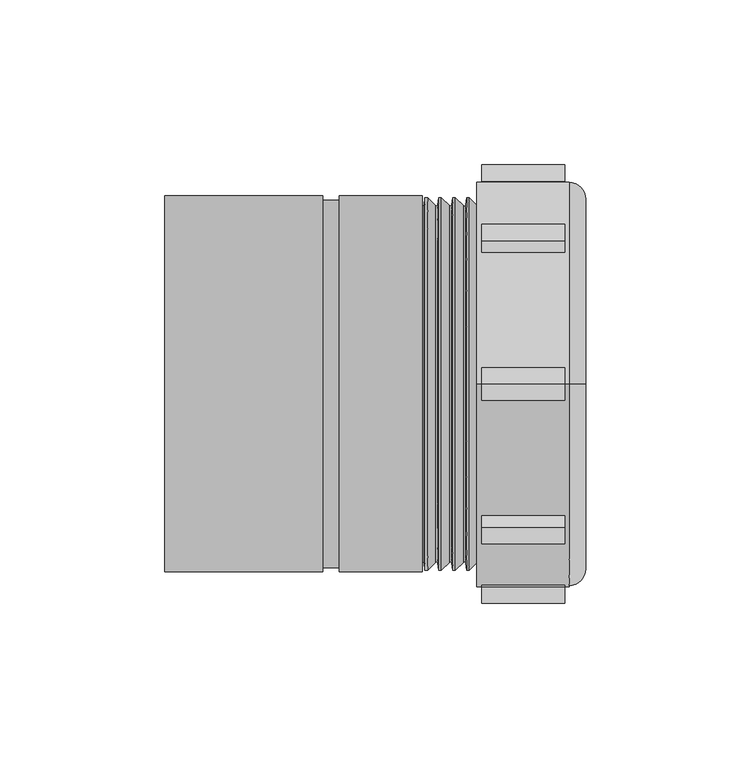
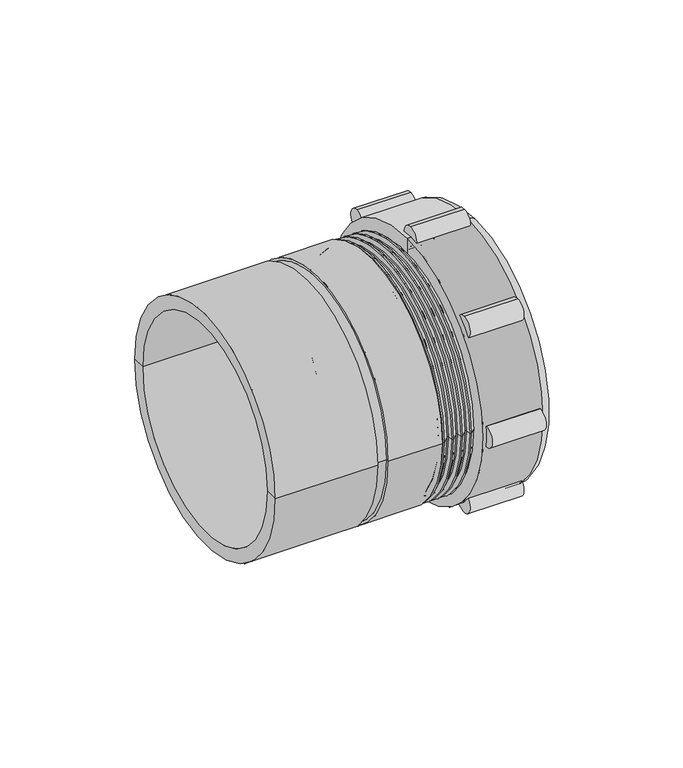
"""IFC4 building model written with IfcOpenShell, lengths in millimetres: pipe fitting geometry, Durapipe_PipeFitting_VulcatheneMechanical_ReducingCoupler_W39 : W3941_4Inxh x 1.25Inch_102mm x 32mm."""

from ifc_helpers import new_model, si_unit, point, frame, frame_2d, origin, place, context, project, spatial, polyline, circle_curve, ellipse_curve, trimmed, segment, composite_curve, outline, extrude, source, transform, mapped, element, save
from ifc_brep_helpers import plane_surface, cylinder_surface, revolved_surface, advanced_brep


def pipe_fitting_d1e91bc4(model_context):
    return source(origin(), model_context, "Body", "SolidModel", [
        advanced_brep(
        [(57.55, 35.9917352, 35.9917352), (57.55, 31.3248304, 31.3248304), (57.55, -31.3248304, -31.3248304), (57.55, -35.9917352, -35.9917352), (37.25, -32.8804653, -32.8804653), (37.25, 32.8804653, 32.8804653), (12.55, 32.8804653, 32.8804653), (12.55, -32.8804653, -32.8804653), (12.55, -31.3248304, -31.3248304), (12.55, 31.3248304, 31.3248304), (46.85, -31.3248304, -31.3248304), (46.85, 31.3248304, 31.3248304), (46.85, -30.6884343, -30.6884343), (46.85, 30.6884343, 30.6884343), (51.45, 31.3248304, 31.3248304), (51.45, 30.6884343, 30.6884343), (51.45, -30.6884343, -30.6884343), (51.45, -31.3248304, -31.3248304)],
        [
            (0, 1),
            (1, 2, circle_curve(frame((57.55, 0.0, 0.0), z_axis=(-1.0, 0.0, 0.0), x_axis=(0.0, -0.7071067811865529, -0.7071067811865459)), 44.3)),
            (2, 3),
            (3, 0, circle_curve(frame((57.55, 0.0, 0.0), z_axis=(1.0, 0.0, 0.0), x_axis=(0.0, -0.7071067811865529, -0.7071067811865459)), 50.9)),
            (2, 1, circle_curve(frame((57.55, 0.0, 0.0), z_axis=(-1.0, 0.0, 0.0), x_axis=(0.0, -0.7071067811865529, -0.7071067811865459)), 44.3)),
            (0, 3, circle_curve(frame((57.55, 0.0, 0.0), z_axis=(1.0, 0.0, 0.0), x_axis=(0.0, -0.7071067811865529, -0.7071067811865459)), 50.9)),
            (3, 4),
            (4, 5, circle_curve(frame((37.25, 0.0, 0.0), z_axis=(1.0, 0.0, 0.0), x_axis=(0.0, -0.7071067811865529, -0.7071067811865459)), 46.5)),
            (5, 0),
            (5, 4, circle_curve(frame((37.25, 0.0, 0.0), z_axis=(1.0, 0.0, 0.0), x_axis=(0.0, -0.7071067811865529, -0.7071067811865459)), 46.5)),
            (6, 5),
            (4, 7),
            (7, 6, circle_curve(frame((12.55, 0.0, 0.0), z_axis=(1.0, 0.0, 0.0), x_axis=(0.0, -0.7071067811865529, -0.7071067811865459)), 46.5)),
            (6, 7, circle_curve(frame((12.55, 0.0, 0.0), z_axis=(1.0, 0.0, 0.0), x_axis=(0.0, -0.7071067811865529, -0.7071067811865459)), 46.5)),
            (7, 8),
            (8, 9, circle_curve(frame((12.55, 0.0, 0.0), z_axis=(1.0, 0.0, 0.0), x_axis=(0.0, -0.7071067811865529, -0.7071067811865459)), 44.3)),
            (9, 6),
            (9, 8, circle_curve(frame((12.55, 0.0, 0.0), z_axis=(1.0, 0.0, 0.0), x_axis=(0.0, -0.7071067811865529, -0.7071067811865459)), 44.3)),
            (8, 10),
            (10, 11, circle_curve(frame((46.85, 0.0, 0.0), z_axis=(1.0, 0.0, 0.0), x_axis=(0.0, -0.7071067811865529, -0.7071067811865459)), 44.3)),
            (11, 9),
            (11, 10, circle_curve(frame((46.85, 0.0, 0.0), z_axis=(1.0, 0.0, 0.0), x_axis=(0.0, -0.7071067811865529, -0.7071067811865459)), 44.3)),
            (10, 12),
            (12, 13, circle_curve(frame((46.85, 0.0, 0.0), z_axis=(1.0, 0.0, 0.0), x_axis=(0.0, -0.7071067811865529, -0.7071067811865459)), 43.4)),
            (13, 11),
            (13, 12, circle_curve(frame((46.85, 0.0, 0.0), z_axis=(1.0, 0.0, 0.0), x_axis=(0.0, -0.7071067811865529, -0.7071067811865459)), 43.4)),
            (14, 15),
            (15, 16, circle_curve(frame((51.45, 0.0, 0.0), z_axis=(-1.0, 0.0, 0.0), x_axis=(0.0, -0.7071067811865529, -0.7071067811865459)), 43.4)),
            (16, 17),
            (17, 14, circle_curve(frame((51.45, 0.0, 0.0), z_axis=(1.0, 0.0, 0.0), x_axis=(0.0, -0.7071067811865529, -0.7071067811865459)), 44.3)),
            (16, 15, circle_curve(frame((51.45, 0.0, 0.0), z_axis=(-1.0, 0.0, 0.0), x_axis=(0.0, -0.7071067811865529, -0.7071067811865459)), 43.4)),
            (14, 17, circle_curve(frame((51.45, 0.0, 0.0), z_axis=(1.0, 0.0, 0.0), x_axis=(0.0, -0.7071067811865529, -0.7071067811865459)), 44.3)),
            (1, 14),
            (17, 2),
            (12, 16),
            (15, 13),
        ],
        [
            plane_surface(frame((57.55, 0.0, 0.0), z_axis=(1.0, 0.0, 0.0), x_axis=(0.0, -0.707106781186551, -0.707106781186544))),
            revolved_surface(polyline([(57.55, -35.9917352, -35.9917352), (37.25, -32.8804653, -32.8804653)]), (62.55, 0.0, 0.0), (-1.0000000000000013, 0.0, 0.0)),
            cylinder_surface(frame((10.4793443, 0.0, 0.0), z_axis=(-1.0000000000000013, 0.0, 0.0), x_axis=(0.0, -0.7071067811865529, -0.7071067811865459)), 46.5),
            plane_surface(frame((12.55, 0.0, 0.0), z_axis=(-1.0, 0.0, 0.0), x_axis=(0.0, -0.707106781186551, -0.707106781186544))),
            revolved_surface(polyline([(12.55000000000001, -31.324830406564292, -31.324830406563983), (46.8500000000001, -31.324830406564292, -31.324830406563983)]), (9.057009, 0.0, 0.0), (-1.0000000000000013, 0.0, 0.0)),
            plane_surface(frame((46.85, 0.0, 0.0), z_axis=(-1.0, 0.0, 0.0), x_axis=(0.0, -0.707106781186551, -0.707106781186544))),
            plane_surface(frame((51.45, 0.0, 0.0), z_axis=(1.0, 0.0, 0.0), x_axis=(0.0, -0.707106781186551, -0.707106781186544))),
            revolved_surface(polyline([(51.449999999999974, -31.324830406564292, -31.324830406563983), (57.54999999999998, -31.324830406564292, -31.324830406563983)]), (62.55, 0.0, 0.0), (-1.0000000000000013, 0.0, 0.0)),
            revolved_surface(polyline([(46.849999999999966, -30.688434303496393, -30.68843430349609), (51.44999999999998, -30.688434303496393, -30.68843430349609)]), (59.1161924, 0.0, 0.0), (-1.0000000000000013, 0.0, 0.0)),
        ],
        [
            (0, [[1, 2, 3, 4]]),
            (0, [[5, -1, 6, -3]]),
            (1, [[7, 8, 9, -4]]),
            (1, [[-9, 10, -7, -6]]),
            (2, [[11, -8, 12, 13]]),
            (2, [[-10, -11, 14, -12]]),
            (3, [[15, 16, 17, -13]]),
            (3, [[-17, 18, -15, -14]]),
            (4, [[-16, 19, 20, 21]]),
            (4, [[22, -19, -18, -21]]),
            (5, [[23, 24, 25, -20]]),
            (5, [[-25, 26, -23, -22]]),
            (6, [[27, 28, 29, 30]]),
            (6, [[-29, 31, -27, 32]]),
            (7, [[33, -30, 34, -2]]),
            (7, [[-34, -32, -33, -5]]),
            (8, [[-24, 35, -28, 36]]),
            (8, [[-31, -35, -26, -36]]),
        ],
    ),
        advanced_brep(
        [(30.85, 0.0, 61.5), (58.85, 0.0, 61.5), (58.85, 0.0, -61.5), (30.85, 0.0, -61.5), (30.85, 0.0, 53.0), (30.85, 0.0, -53.0), (63.85, 0.0, 56.5), (63.85, 0.0, 45.0), (63.85, 0.0, -45.0), (63.85, 0.0, -56.5), (57.55, 0.0, 53.0), (57.55, 0.0, -53.0), (57.55, 0.0, 45.0), (57.55, 0.0, -45.0)],
        [
            (0, 1),
            (1, 2, circle_curve(frame((58.85, 0.0, 0.0), z_axis=(-1.0, 0.0, 0.0), x_axis=(0.0, 0.0, -1.0000000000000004)), 61.5)),
            (2, 3),
            (3, 0, circle_curve(frame((30.85, 0.0, 0.0), z_axis=(1.0, 0.0, 0.0), x_axis=(0.0, 0.0, -1.0000000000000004)), 61.5)),
            (2, 1, circle_curve(frame((58.85, 0.0, 0.0), z_axis=(-1.0, 0.0, 0.0), x_axis=(0.0, 0.0, -1.0000000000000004)), 61.5)),
            (0, 3, circle_curve(frame((30.85, 0.0, 0.0), z_axis=(1.0, 0.0, 0.0), x_axis=(0.0, 0.0, -1.0000000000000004)), 61.5)),
            (4, 0),
            (3, 5),
            (5, 4, circle_curve(frame((30.85, 0.0, 0.0), z_axis=(1.0, 0.0, 0.0), x_axis=(0.0, 0.0, -1.0000000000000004)), 53.0)),
            (4, 5, circle_curve(frame((30.85, 0.0, 0.0), z_axis=(1.0, 0.0, 0.0), x_axis=(0.0, 0.0, -1.0000000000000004)), 53.0)),
            (6, 7),
            (7, 8, circle_curve(frame((63.85, 0.0, 0.0), z_axis=(-1.0, 0.0, 0.0), x_axis=(0.0, 0.0, -1.0000000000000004)), 45.0)),
            (8, 9),
            (9, 6, circle_curve(frame((63.85, 0.0, 0.0), z_axis=(1.0, 0.0, 0.0), x_axis=(0.0, 0.0, -1.0000000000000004)), 56.5)),
            (8, 7, circle_curve(frame((63.85, 0.0, 0.0), z_axis=(-1.0, 0.0, 0.0), x_axis=(0.0, 0.0, -1.0000000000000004)), 45.0)),
            (6, 9, circle_curve(frame((63.85, 0.0, 0.0), z_axis=(1.0, 0.0, 0.0), x_axis=(0.0, 0.0, -1.0000000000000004)), 56.5)),
            (1, 6, circle_curve(frame((58.85, 0.0, 56.5), z_axis=(0.0, 1.0000000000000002, 0.0), x_axis=(1.0000000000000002, 0.0, 0.0)), 5.0)),
            (9, 2, circle_curve(frame((58.85, 0.0, -56.5), z_axis=(0.0, 1.0000000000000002, 0.0), x_axis=(1.0000000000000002, 0.0, 0.0)), 5.0)),
            (10, 4),
            (5, 11),
            (11, 10, circle_curve(frame((57.55, 0.0, 0.0), z_axis=(1.0, 0.0, 0.0), x_axis=(0.0, 0.0, -1.0000000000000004)), 53.0)),
            (10, 11, circle_curve(frame((57.55, 0.0, 0.0), z_axis=(1.0, 0.0, 0.0), x_axis=(0.0, 0.0, -1.0000000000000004)), 53.0)),
            (12, 10),
            (11, 13),
            (13, 12, circle_curve(frame((57.55, 0.0, 0.0), z_axis=(1.0, 0.0, 0.0), x_axis=(0.0, 0.0, -1.0000000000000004)), 45.0)),
            (12, 13, circle_curve(frame((57.55, 0.0, 0.0), z_axis=(1.0, 0.0, 0.0), x_axis=(0.0, 0.0, -1.0000000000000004)), 45.0)),
            (7, 12),
            (13, 8),
        ],
        [
            cylinder_surface(frame((1624.6518184, 0.0, 0.0), z_axis=(-1.0000000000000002, 0.0, 0.0), x_axis=(0.0, 0.0, -1.0000000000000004)), 61.5),
            plane_surface(frame((30.85, 0.0, 0.0), z_axis=(-1.0, 0.0, 0.0), x_axis=(0.0, 0.0, -1.0))),
            plane_surface(frame((63.85, 0.0, 0.0), z_axis=(1.0, 0.0, 0.0), x_axis=(0.0, 0.0, -1.0))),
            revolved_surface(trimmed(ellipse_curve(frame((58.85, 0.0, -56.5), z_axis=(0.0, 1.0000000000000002, 0.0), x_axis=(1.0000000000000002, 0.0, 0.0)), 5.0, 5.0), [point((63.85, 0.0, -56.5))], [point((58.85, 0.0, -61.5))], True, "CARTESIAN"), (1624.6518184, 0.0, 0.0), (-1.0000000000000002, 0.0, 0.0)),
            revolved_surface(polyline([(30.849999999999, 0.0, -53.00000000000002), (57.549999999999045, 0.0, -53.00000000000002)]), (1624.6518184, 0.0, 0.0), (-1.0000000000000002, 0.0, 0.0)),
            plane_surface(frame((57.55, 0.0, 0.0), z_axis=(-1.0, 0.0, 0.0), x_axis=(0.0, 0.0, -1.0))),
            revolved_surface(polyline([(57.549999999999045, 0.0, -45.00000000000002), (63.849999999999, 0.0, -45.00000000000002)]), (1624.6518184, 0.0, 0.0), (-1.0000000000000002, 0.0, 0.0)),
        ],
        [
            (0, [[1, 2, 3, 4]]),
            (0, [[-3, 5, -1, 6]]),
            (1, [[7, -4, 8, 9]]),
            (1, [[-8, -6, -7, 10]]),
            (2, [[11, 12, 13, 14]]),
            (2, [[-13, 15, -11, 16]]),
            (3, [[17, -14, 18, -2]]),
            (3, [[-18, -16, -17, -5]]),
            (4, [[19, -9, 20, 21]]),
            (4, [[-20, -10, -19, 22]]),
            (5, [[23, -21, 24, 25]]),
            (5, [[-24, -22, -23, 26]]),
            (6, [[27, -25, 28, -12]]),
            (6, [[-28, -26, -27, -15]]),
        ],
    ),
        extrude(outline(composite_curve([segment(trimmed(circle_curve(frame_2d((-61.5, 0.0)), 5.0), [point((-61.5, 5.0))], [point((-61.5, -5.0))], False, "CARTESIAN"), True, "CONTINUOUS"), segment(trimmed(circle_curve(frame_2d((-61.5, 0.0)), 5.0), [point((-61.5, -5.0))], [point((-61.5, 5.0))], False, "CARTESIAN"), True, "CONTINUOUS")], self_intersect=False)), frame((32.35, 0.0, 0.0), z_axis=(1.0, 0.0, 0.0), x_axis=(0.0, 1.0, 0.0)), (0.0, 0.0, 1.0), 25.2),
        extrude(outline(composite_curve([segment(trimmed(circle_curve(frame_2d((-43.487067, -43.487067)), 5.0), [point((-43.487067, -38.487067))], [point((-43.487067, -48.487067))], False, "CARTESIAN"), True, "CONTINUOUS"), segment(trimmed(circle_curve(frame_2d((-43.487067, -43.487067)), 5.0), [point((-43.487067, -48.487067))], [point((-43.487067, -38.487067))], False, "CARTESIAN"), True, "CONTINUOUS")], self_intersect=False)), frame((32.35, 0.0, 0.0), z_axis=(1.0, 0.0, 0.0), x_axis=(0.0, 1.0, 0.0)), (0.0, 0.0, 1.0), 25.2),
        extrude(outline(composite_curve([segment(trimmed(circle_curve(frame_2d((0.0, -61.5)), 5.0), [point((0.0, -56.5))], [point((0.0, -66.5))], False, "CARTESIAN"), True, "CONTINUOUS"), segment(trimmed(circle_curve(frame_2d((0.0, -61.5)), 5.0), [point((0.0, -66.5))], [point((0.0, -56.5))], False, "CARTESIAN"), True, "CONTINUOUS")], self_intersect=False)), frame((32.35, 0.0, 0.0), z_axis=(1.0, 0.0, 0.0), x_axis=(0.0, 1.0, 0.0)), (0.0, 0.0, 1.0), 25.2),
        extrude(outline(composite_curve([segment(trimmed(circle_curve(frame_2d((43.487067, -43.487067)), 5.0), [point((43.487067, -38.487067))], [point((43.487067, -48.487067))], False, "CARTESIAN"), True, "CONTINUOUS"), segment(trimmed(circle_curve(frame_2d((43.487067, -43.487067)), 5.0), [point((43.487067, -48.487067))], [point((43.487067, -38.487067))], False, "CARTESIAN"), True, "CONTINUOUS")], self_intersect=False)), frame((32.35, 0.0, 0.0), z_axis=(1.0, 0.0, 0.0), x_axis=(0.0, 1.0, 0.0)), (0.0, 0.0, 1.0), 25.2),
        extrude(outline(composite_curve([segment(trimmed(circle_curve(frame_2d((61.5, 0.0)), 5.0), [point((61.5, 5.0))], [point((61.5, -5.0))], False, "CARTESIAN"), True, "CONTINUOUS"), segment(trimmed(circle_curve(frame_2d((61.5, 0.0)), 5.0), [point((61.5, -5.0))], [point((61.5, 5.0))], False, "CARTESIAN"), True, "CONTINUOUS")], self_intersect=False)), frame((32.35, 0.0, 0.0), z_axis=(1.0, 0.0, 0.0), x_axis=(0.0, 1.0, 0.0)), (0.0, 0.0, 1.0), 25.2),
        extrude(outline(composite_curve([segment(trimmed(circle_curve(frame_2d((43.487067, 43.487067)), 5.0), [point((43.487067, 48.487067))], [point((43.487067, 38.487067))], False, "CARTESIAN"), True, "CONTINUOUS"), segment(trimmed(circle_curve(frame_2d((43.487067, 43.487067)), 5.0), [point((43.487067, 38.487067))], [point((43.487067, 48.487067))], False, "CARTESIAN"), True, "CONTINUOUS")], self_intersect=False)), frame((32.35, 0.0, 0.0), z_axis=(1.0, 0.0, 0.0), x_axis=(0.0, 1.0, 0.0)), (0.0, 0.0, 1.0), 25.2),
        extrude(outline(composite_curve([segment(trimmed(circle_curve(frame_2d((0.0, 61.5)), 5.0), [point((0.0, 66.5))], [point((0.0, 56.5))], False, "CARTESIAN"), True, "CONTINUOUS"), segment(trimmed(circle_curve(frame_2d((0.0, 61.5)), 5.0), [point((0.0, 56.5))], [point((0.0, 66.5))], False, "CARTESIAN"), True, "CONTINUOUS")], self_intersect=False)), frame((32.35, 0.0, 0.0), z_axis=(1.0, 0.0, 0.0), x_axis=(0.0, 1.0, 0.0)), (0.0, 0.0, 1.0), 25.2),
        extrude(outline(composite_curve([segment(trimmed(circle_curve(frame_2d((-43.487067, 43.487067)), 5.0), [point((-43.487067, 48.487067))], [point((-43.487067, 38.487067))], False, "CARTESIAN"), True, "CONTINUOUS"), segment(trimmed(circle_curve(frame_2d((-43.487067, 43.487067)), 5.0), [point((-43.487067, 38.487067))], [point((-43.487067, 48.487067))], False, "CARTESIAN"), True, "CONTINUOUS")], self_intersect=False)), frame((32.35, 0.0, 0.0), z_axis=(1.0, 0.0, 0.0), x_axis=(0.0, 1.0, 0.0)), (0.0, 0.0, 1.0), 25.2),
        advanced_brep(
        [(-63.85, -57.035, 0.0), (-63.85, 57.035, 0.0), (-15.9625, 57.035, 0.0), (-15.9625, -57.035, 0.0), (-63.85, -50.8, 0.0), (-63.85, 50.8, 0.0), (6.2625, -50.8, 0.0), (6.2625, 50.8, 0.0), (6.2625, -39.290625, 0.0), (6.2625, 39.290625, 0.0), (11.025, -39.290625, 0.0), (11.025, 39.290625, 0.0), (11.025, -48.0314, 0.0), (11.025, 48.0314, 0.0), (32.7469474, -48.0314, 0.0), (32.7469474, 48.0314, 0.0), (31.9469474, -56.5528275, 0.0), (31.9469474, 56.5528275, 0.0), (32.7469474, 56.5528275, 0.0), (32.7469474, -56.5528275, 0.0), (31.6728935, -54.3208375, 0.0), (31.6728935, 54.3208375, 0.0), (30.9930323, -54.0867426, 0.0), (30.9930323, 54.0867426, 0.0), (28.5269474, -56.5528275, 0.0), (28.5269474, 56.5528275, 0.0), (27.7269474, -56.5528275, 0.0), (27.7269474, 56.5528275, 0.0), (27.4528935, -54.3208375, 0.0), (27.4528935, 54.3208375, 0.0), (26.7730323, -54.0867426, 0.0), (26.7730323, 54.0867426, 0.0), (24.3069474, -56.5528275, 0.0), (24.3069474, 56.5528275, 0.0), (23.5069474, -56.5528275, 0.0), (23.5069474, 56.5528275, 0.0), (23.2328935, -54.3208375, 0.0), (23.2328935, 54.3208375, 0.0), (22.5530323, -54.0867426, 0.0), (22.5530323, 54.0867426, 0.0), (20.0869474, -56.5528275, 0.0), (20.0869474, 56.5528275, 0.0), (19.2869474, -56.5528275, 0.0), (19.2869474, 56.5528275, 0.0), (19.0128935, -54.3208375, 0.0), (19.0128935, 54.3208375, 0.0), (18.3330323, -54.0867426, 0.0), (18.3330323, 54.0867426, 0.0), (15.8669474, -56.5528275, 0.0), (15.8669474, 56.5528275, 0.0), (15.0669474, -56.5528275, 0.0), (15.0669474, 56.5528275, 0.0), (14.7977638, -54.3605033, 0.0), (14.7977638, 54.3605033, 0.0), (14.2, -54.3970641, 0.0), (14.2, 54.3970641, 0.0), (14.2, -57.035, 0.0), (14.2, 57.035, 0.0), (-10.8825, -57.035, 0.0), (-10.8825, 57.035, 0.0), (-10.8825, -55.735, 0.0), (-10.8825, 55.735, 0.0), (-15.9625, -55.735, 0.0), (-15.9625, 55.735, 0.0)],
        [
            (0, 1, circle_curve(frame((-63.85, 0.0, 0.0), z_axis=(1.0, 0.0, 0.0), x_axis=(0.0, 1.0, 0.0)), 57.035)),
            (1, 2),
            (2, 3, circle_curve(frame((-15.9625, 0.0, 0.0), z_axis=(-1.0, 0.0, 0.0), x_axis=(0.0, 1.0, 0.0)), 57.035)),
            (3, 0),
            (1, 0, circle_curve(frame((-63.85, 0.0, 0.0), z_axis=(1.0, 0.0, 0.0), x_axis=(0.0, 1.0, 0.0)), 57.035)),
            (3, 2, circle_curve(frame((-15.9625, 0.0, 0.0), z_axis=(-1.0, 0.0, 0.0), x_axis=(0.0, 1.0, 0.0)), 57.035)),
            (4, 5, circle_curve(frame((-63.85, 0.0, 0.0), z_axis=(1.0, 0.0, 0.0), x_axis=(0.0, 1.0, 0.0)), 50.8)),
            (5, 1),
            (0, 4),
            (5, 4, circle_curve(frame((-63.85, 0.0, 0.0), z_axis=(1.0, 0.0, 0.0), x_axis=(0.0, 1.0, 0.0)), 50.8)),
            (6, 7, circle_curve(frame((6.2625, 0.0, 0.0), z_axis=(1.0, 0.0, 0.0), x_axis=(0.0, 1.0, 0.0)), 50.8)),
            (7, 5),
            (4, 6),
            (7, 6, circle_curve(frame((6.2625, 0.0, 0.0), z_axis=(1.0, 0.0, 0.0), x_axis=(0.0, 1.0, 0.0)), 50.8)),
            (8, 9, circle_curve(frame((6.2625, 0.0, 0.0), z_axis=(1.0, 0.0, 0.0), x_axis=(0.0, 1.0, 0.0)), 39.290625)),
            (9, 7),
            (6, 8),
            (9, 8, circle_curve(frame((6.2625, 0.0, 0.0), z_axis=(1.0, 0.0, 0.0), x_axis=(0.0, 1.0, 0.0)), 39.290625)),
            (10, 11, circle_curve(frame((11.025, 0.0, 0.0), z_axis=(1.0, 0.0, 0.0), x_axis=(0.0, 1.0, 0.0)), 39.290625)),
            (11, 9),
            (8, 10),
            (11, 10, circle_curve(frame((11.025, 0.0, 0.0), z_axis=(1.0, 0.0, 0.0), x_axis=(0.0, 1.0, 0.0)), 39.290625)),
            (12, 13, circle_curve(frame((11.025, 0.0, 0.0), z_axis=(1.0, 0.0, 0.0), x_axis=(0.0, 1.0, 0.0)), 48.0314)),
            (13, 11),
            (10, 12),
            (13, 12, circle_curve(frame((11.025, 0.0, 0.0), z_axis=(1.0, 0.0, 0.0), x_axis=(0.0, 1.0, 0.0)), 48.0314)),
            (14, 15, circle_curve(frame((32.7469474, 0.0, 0.0), z_axis=(1.0, 0.0, 0.0), x_axis=(0.0, 1.0, 0.0)), 48.0314)),
            (15, 13),
            (12, 14),
            (15, 14, circle_curve(frame((32.7469474, 0.0, 0.0), z_axis=(1.0, 0.0, 0.0), x_axis=(0.0, 1.0, 0.0)), 48.0314)),
            (16, 17, circle_curve(frame((31.9469474, 0.0, 0.0), z_axis=(1.0, 0.0, 0.0), x_axis=(0.0, 1.0, 0.0)), 56.5528275)),
            (17, 18),
            (18, 19, circle_curve(frame((32.7469474, 0.0, 0.0), z_axis=(-1.0, 0.0, 0.0), x_axis=(0.0, 1.0, 0.0)), 56.5528275)),
            (19, 16),
            (17, 16, circle_curve(frame((31.9469474, 0.0, 0.0), z_axis=(1.0, 0.0, 0.0), x_axis=(0.0, 1.0, 0.0)), 56.5528275)),
            (19, 18, circle_curve(frame((32.7469474, 0.0, 0.0), z_axis=(-1.0, 0.0, 0.0), x_axis=(0.0, 1.0, 0.0)), 56.5528275)),
            (20, 21, circle_curve(frame((31.6728935, 0.0, 0.0), z_axis=(1.0, 0.0, 0.0), x_axis=(0.0, 1.0, 0.0)), 54.3208375)),
            (21, 17),
            (16, 20),
            (21, 20, circle_curve(frame((31.6728935, 0.0, 0.0), z_axis=(1.0, 0.0, 0.0), x_axis=(0.0, 1.0, 0.0)), 54.3208375)),
            (22, 23, circle_curve(frame((30.9930323, 0.0, 0.0), z_axis=(1.0, 0.0, 0.0), x_axis=(0.0, 1.0, 0.0)), 54.0867426)),
            (23, 21, circle_curve(frame((31.275875, 54.3695853, 0.0), z_axis=(0.0, 0.0, 1.0), x_axis=(1.0, 0.0, 0.0)), 0.4)),
            (20, 22, circle_curve(frame((31.275875, -54.3695853, 0.0), z_axis=(0.0, 0.0, 1.0), x_axis=(1.0, 0.0, 0.0)), 0.4)),
            (23, 22, circle_curve(frame((30.9930323, 0.0, 0.0), z_axis=(1.0, 0.0, 0.0), x_axis=(0.0, 1.0, 0.0)), 54.0867426)),
            (24, 25, circle_curve(frame((28.5269474, 0.0, 0.0), z_axis=(1.0, 0.0, 0.0), x_axis=(0.0, 1.0, 0.0)), 56.5528275)),
            (25, 23),
            (22, 24),
            (25, 24, circle_curve(frame((28.5269474, 0.0, 0.0), z_axis=(1.0, 0.0, 0.0), x_axis=(0.0, 1.0, 0.0)), 56.5528275)),
            (26, 27, circle_curve(frame((27.7269474, 0.0, 0.0), z_axis=(1.0, 0.0, 0.0), x_axis=(0.0, 1.0, 0.0)), 56.5528275)),
            (27, 25),
            (24, 26),
            (27, 26, circle_curve(frame((27.7269474, 0.0, 0.0), z_axis=(1.0, 0.0, 0.0), x_axis=(0.0, 1.0, 0.0)), 56.5528275)),
            (28, 29, circle_curve(frame((27.4528935, 0.0, 0.0), z_axis=(1.0, 0.0, 0.0), x_axis=(0.0, 1.0, 0.0)), 54.3208375)),
            (29, 27),
            (26, 28),
            (29, 28, circle_curve(frame((27.4528935, 0.0, 0.0), z_axis=(1.0, 0.0, 0.0), x_axis=(0.0, 1.0, 0.0)), 54.3208375)),
            (30, 31, circle_curve(frame((26.7730323, 0.0, 0.0), z_axis=(1.0, 0.0, 0.0), x_axis=(0.0, 1.0, 0.0)), 54.0867426)),
            (31, 29, circle_curve(frame((27.055875, 54.3695853, 0.0), z_axis=(0.0, 0.0, 1.0), x_axis=(1.0, 0.0, 0.0)), 0.4)),
            (28, 30, circle_curve(frame((27.055875, -54.3695853, 0.0), z_axis=(0.0, 0.0, 1.0), x_axis=(1.0, 0.0, 0.0)), 0.4)),
            (31, 30, circle_curve(frame((26.7730323, 0.0, 0.0), z_axis=(1.0, 0.0, 0.0), x_axis=(0.0, 1.0, 0.0)), 54.0867426)),
            (32, 33, circle_curve(frame((24.3069474, 0.0, 0.0), z_axis=(1.0, 0.0, 0.0), x_axis=(0.0, 1.0, 0.0)), 56.5528275)),
            (33, 31),
            (30, 32),
            (33, 32, circle_curve(frame((24.3069474, 0.0, 0.0), z_axis=(1.0, 0.0, 0.0), x_axis=(0.0, 1.0, 0.0)), 56.5528275)),
            (34, 35, circle_curve(frame((23.5069474, 0.0, 0.0), z_axis=(1.0, 0.0, 0.0), x_axis=(0.0, 1.0, 0.0)), 56.5528275)),
            (35, 33),
            (32, 34),
            (35, 34, circle_curve(frame((23.5069474, 0.0, 0.0), z_axis=(1.0, 0.0, 0.0), x_axis=(0.0, 1.0, 0.0)), 56.5528275)),
            (36, 37, circle_curve(frame((23.2328935, 0.0, 0.0), z_axis=(1.0, 0.0, 0.0), x_axis=(0.0, 1.0, 0.0)), 54.3208375)),
            (37, 35),
            (34, 36),
            (37, 36, circle_curve(frame((23.2328935, 0.0, 0.0), z_axis=(1.0, 0.0, 0.0), x_axis=(0.0, 1.0, 0.0)), 54.3208375)),
            (38, 39, circle_curve(frame((22.5530323, 0.0, 0.0), z_axis=(1.0, 0.0, 0.0), x_axis=(0.0, 1.0, 0.0)), 54.0867426)),
            (39, 37, circle_curve(frame((22.835875, 54.3695853, 0.0), z_axis=(0.0, 0.0, 1.0), x_axis=(1.0, 0.0, 0.0)), 0.4)),
            (36, 38, circle_curve(frame((22.835875, -54.3695853, 0.0), z_axis=(0.0, 0.0, 1.0), x_axis=(1.0, 0.0, 0.0)), 0.4)),
            (39, 38, circle_curve(frame((22.5530323, 0.0, 0.0), z_axis=(1.0, 0.0, 0.0), x_axis=(0.0, 1.0, 0.0)), 54.0867426)),
            (40, 41, circle_curve(frame((20.0869474, 0.0, 0.0), z_axis=(1.0, 0.0, 0.0), x_axis=(0.0, 1.0, 0.0)), 56.5528275)),
            (41, 39),
            (38, 40),
            (41, 40, circle_curve(frame((20.0869474, 0.0, 0.0), z_axis=(1.0, 0.0, 0.0), x_axis=(0.0, 1.0, 0.0)), 56.5528275)),
            (42, 43, circle_curve(frame((19.2869474, 0.0, 0.0), z_axis=(1.0, 0.0, 0.0), x_axis=(0.0, 1.0, 0.0)), 56.5528275)),
            (43, 41),
            (40, 42),
            (43, 42, circle_curve(frame((19.2869474, 0.0, 0.0), z_axis=(1.0, 0.0, 0.0), x_axis=(0.0, 1.0, 0.0)), 56.5528275)),
            (44, 45, circle_curve(frame((19.0128935, 0.0, 0.0), z_axis=(1.0, 0.0, 0.0), x_axis=(0.0, 1.0, 0.0)), 54.3208375)),
            (45, 43),
            (42, 44),
            (45, 44, circle_curve(frame((19.0128935, 0.0, 0.0), z_axis=(1.0, 0.0, 0.0), x_axis=(0.0, 1.0, 0.0)), 54.3208375)),
            (46, 47, circle_curve(frame((18.3330323, 0.0, 0.0), z_axis=(1.0, 0.0, 0.0), x_axis=(0.0, 1.0, 0.0)), 54.0867426)),
            (47, 45, circle_curve(frame((18.615875, 54.3695853, 0.0), z_axis=(0.0, 0.0, 1.0), x_axis=(1.0, 0.0, 0.0)), 0.4)),
            (44, 46, circle_curve(frame((18.615875, -54.3695853, 0.0), z_axis=(0.0, 0.0, 1.0), x_axis=(1.0, 0.0, 0.0)), 0.4)),
            (47, 46, circle_curve(frame((18.3330323, 0.0, 0.0), z_axis=(1.0, 0.0, 0.0), x_axis=(0.0, 1.0, 0.0)), 54.0867426)),
            (48, 49, circle_curve(frame((15.8669474, 0.0, 0.0), z_axis=(1.0, 0.0, 0.0), x_axis=(0.0, 1.0, 0.0)), 56.5528275)),
            (49, 47),
            (46, 48),
            (49, 48, circle_curve(frame((15.8669474, 0.0, 0.0), z_axis=(1.0, 0.0, 0.0), x_axis=(0.0, 1.0, 0.0)), 56.5528275)),
            (50, 51, circle_curve(frame((15.0669474, 0.0, 0.0), z_axis=(1.0, 0.0, 0.0), x_axis=(0.0, 1.0, 0.0)), 56.5528275)),
            (51, 49),
            (48, 50),
            (51, 50, circle_curve(frame((15.0669474, 0.0, 0.0), z_axis=(1.0, 0.0, 0.0), x_axis=(0.0, 1.0, 0.0)), 56.5528275)),
            (52, 53, circle_curve(frame((14.7977638, 0.0, 0.0), z_axis=(1.0, 0.0, 0.0), x_axis=(0.0, 1.0, 0.0)), 54.3605033)),
            (53, 51),
            (50, 52),
            (53, 52, circle_curve(frame((14.7977638, 0.0, 0.0), z_axis=(1.0, 0.0, 0.0), x_axis=(0.0, 1.0, 0.0)), 54.3605033)),
            (54, 55, circle_curve(frame((14.2, 0.0, 0.0), z_axis=(1.0, 0.0, 0.0), x_axis=(0.0, 1.0, 0.0)), 54.3970641)),
            (55, 53, circle_curve(frame((14.5, 54.3970641, 0.0), z_axis=(0.0, 0.0, 1.0), x_axis=(1.0, 0.0, 0.0)), 0.3)),
            (52, 54, circle_curve(frame((14.5, -54.3970641, 0.0), z_axis=(0.0, 0.0, 1.0), x_axis=(1.0, 0.0, 0.0)), 0.3)),
            (55, 54, circle_curve(frame((14.2, 0.0, 0.0), z_axis=(1.0, 0.0, 0.0), x_axis=(0.0, 1.0, 0.0)), 54.3970641)),
            (56, 57, circle_curve(frame((14.2, 0.0, 0.0), z_axis=(1.0, 0.0, 0.0), x_axis=(0.0, 1.0, 0.0)), 57.035)),
            (57, 55),
            (54, 56),
            (57, 56, circle_curve(frame((14.2, 0.0, 0.0), z_axis=(1.0, 0.0, 0.0), x_axis=(0.0, 1.0, 0.0)), 57.035)),
            (58, 59, circle_curve(frame((-10.8825, 0.0, 0.0), z_axis=(1.0, 0.0, 0.0), x_axis=(0.0, 1.0, 0.0)), 57.035)),
            (59, 57),
            (56, 58),
            (59, 58, circle_curve(frame((-10.8825, 0.0, 0.0), z_axis=(1.0, 0.0, 0.0), x_axis=(0.0, 1.0, 0.0)), 57.035)),
            (60, 61, circle_curve(frame((-10.8825, 0.0, 0.0), z_axis=(1.0, 0.0, 0.0), x_axis=(0.0, 1.0, 0.0)), 55.735)),
            (61, 59),
            (58, 60),
            (61, 60, circle_curve(frame((-10.8825, 0.0, 0.0), z_axis=(1.0, 0.0, 0.0), x_axis=(0.0, 1.0, 0.0)), 55.735)),
            (62, 63, circle_curve(frame((-15.9625, 0.0, 0.0), z_axis=(1.0, 0.0, 0.0), x_axis=(0.0, 1.0, 0.0)), 55.735)),
            (63, 61),
            (60, 62),
            (63, 62, circle_curve(frame((-15.9625, 0.0, 0.0), z_axis=(1.0, 0.0, 0.0), x_axis=(0.0, 1.0, 0.0)), 55.735)),
            (2, 63),
            (62, 3),
            (18, 15),
            (14, 19),
        ],
        [
            cylinder_surface(frame((77.3437902, 0.0, 0.0), z_axis=(-1.0, 0.0, 0.0), x_axis=(0.0, 1.0, 0.0)), 57.035),
            plane_surface(frame((-63.85, 0.0, 0.0), z_axis=(-1.0, 0.0, 0.0), x_axis=(0.0, 1.0, 0.0))),
            revolved_surface(polyline([(-63.849999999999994, 50.8, 0.0), (6.262500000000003, 50.8, 0.0)]), (77.3437902, 0.0, 0.0), (-1.0, 0.0, 0.0)),
            plane_surface(frame((6.2625, 0.0, 0.0), z_axis=(-1.0, 0.0, 0.0), x_axis=(0.0, 1.0, 0.0))),
            revolved_surface(polyline([(6.262500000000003, 39.290625, 0.0), (11.025000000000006, 39.290625, 0.0)]), (77.3437902, 0.0, 0.0), (-1.0, 0.0, 0.0)),
            plane_surface(frame((11.025, 0.0, 0.0), z_axis=(1.0, 0.0, 0.0), x_axis=(0.0, 1.0, 0.0))),
            revolved_surface(polyline([(11.025000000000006, 48.0314, 0.0), (32.7469474, 48.0314, 0.0)]), (77.3437902, 0.0, 0.0), (-1.0, 0.0, 0.0)),
            cylinder_surface(frame((77.3437902, 0.0, 0.0), z_axis=(-1.0, 0.0, 0.0), x_axis=(0.0, 1.0, 0.0)), 56.5528275),
            revolved_surface(polyline([(31.9469474, 56.5528275, 0.0), (31.6728935, 54.3208375, 0.0)]), (77.3437902, 0.0, 0.0), (-1.0, 0.0, 0.0)),
            revolved_surface(trimmed(ellipse_curve(frame((31.275875, 54.3695853, 0.0), z_axis=(0.0, 0.0, -1.0), x_axis=(1.0, 0.0, 0.0)), 0.4, 0.4), [point((31.6728935, 54.3208375, 0.0))], [point((30.9930323, 54.0867426, 0.0))], True, "CARTESIAN"), (77.3437902, 0.0, 0.0), (-1.0, 0.0, 0.0)),
            revolved_surface(polyline([(30.9930323, 54.0867426, 0.0), (28.5269474, 56.5528275, 0.0)]), (77.3437902, 0.0, 0.0), (-1.0, 0.0, 0.0)),
            revolved_surface(polyline([(27.7269474, 56.5528275, 0.0), (27.4528935, 54.3208375, 0.0)]), (77.3437902, 0.0, 0.0), (-1.0, 0.0, 0.0)),
            revolved_surface(trimmed(ellipse_curve(frame((27.055875, 54.3695853, 0.0), z_axis=(0.0, 0.0, -1.0), x_axis=(1.0, 0.0, 0.0)), 0.4, 0.4), [point((27.4528935, 54.3208375, 0.0))], [point((26.7730323, 54.0867426, 0.0))], True, "CARTESIAN"), (77.3437902, 0.0, 0.0), (-1.0, 0.0, 0.0)),
            revolved_surface(polyline([(26.7730323, 54.0867426, 0.0), (24.3069474, 56.5528275, 0.0)]), (77.3437902, 0.0, 0.0), (-1.0, 0.0, 0.0)),
            revolved_surface(polyline([(23.5069474, 56.5528275, 0.0), (23.2328935, 54.3208375, 0.0)]), (77.3437902, 0.0, 0.0), (-1.0, 0.0, 0.0)),
            revolved_surface(trimmed(ellipse_curve(frame((22.835875, 54.3695853, 0.0), z_axis=(0.0, 0.0, -1.0), x_axis=(1.0, 0.0, 0.0)), 0.4, 0.4), [point((23.2328935, 54.3208375, 0.0))], [point((22.5530323, 54.0867426, 0.0))], True, "CARTESIAN"), (77.3437902, 0.0, 0.0), (-1.0, 0.0, 0.0)),
            revolved_surface(polyline([(22.5530323, 54.0867426, 0.0), (20.0869474, 56.5528275, 0.0)]), (77.3437902, 0.0, 0.0), (-1.0, 0.0, 0.0)),
            revolved_surface(polyline([(19.2869474, 56.5528275, 0.0), (19.0128935, 54.3208375, 0.0)]), (77.3437902, 0.0, 0.0), (-1.0, 0.0, 0.0)),
            revolved_surface(trimmed(ellipse_curve(frame((18.615875, 54.3695853, 0.0), z_axis=(0.0, 0.0, -1.0), x_axis=(1.0, 0.0, 0.0)), 0.4, 0.4), [point((19.0128935, 54.3208375, 0.0))], [point((18.3330323, 54.0867426, 0.0))], True, "CARTESIAN"), (77.3437902, 0.0, 0.0), (-1.0, 0.0, 0.0)),
            revolved_surface(polyline([(18.3330323, 54.0867426, 0.0), (15.8669474, 56.5528275, 0.0)]), (77.3437902, 0.0, 0.0), (-1.0, 0.0, 0.0)),
            revolved_surface(polyline([(15.0669474, 56.5528275, 0.0), (14.7977638, 54.3605033, 0.0)]), (77.3437902, 0.0, 0.0), (-1.0, 0.0, 0.0)),
            revolved_surface(trimmed(ellipse_curve(frame((14.5, 54.3970641, 0.0), z_axis=(0.0, 0.0, -1.0), x_axis=(1.0, 0.0, 0.0)), 0.3, 0.3), [point((14.7977638, 54.3605033, 0.0))], [point((14.2, 54.3970641, 0.0))], True, "CARTESIAN"), (77.3437902, 0.0, 0.0), (-1.0, 0.0, 0.0)),
            plane_surface(frame((14.2, 0.0, 0.0), z_axis=(1.0, 0.0, 0.0), x_axis=(0.0, 1.0, 0.0))),
            plane_surface(frame((-10.8825, 0.0, 0.0), z_axis=(-1.0, 0.0, 0.0), x_axis=(0.0, 1.0, 0.0))),
            cylinder_surface(frame((77.3437902, 0.0, 0.0), z_axis=(-1.0, 0.0, 0.0), x_axis=(0.0, 1.0, 0.0)), 55.735),
            plane_surface(frame((-15.9625, 0.0, 0.0), z_axis=(1.0, 0.0, 0.0), x_axis=(0.0, 1.0, 0.0))),
            plane_surface(frame((32.7469474, 0.0, 0.0), z_axis=(1.0, 0.0, 0.0), x_axis=(0.0, 1.0, 0.0))),
        ],
        [
            (0, [[1, 2, 3, 4]]),
            (0, [[5, -4, 6, -2]]),
            (1, [[7, 8, -1, 9]]),
            (1, [[10, -9, -5, -8]]),
            (2, [[11, 12, -7, 13]]),
            (2, [[14, -13, -10, -12]]),
            (3, [[15, 16, -11, 17]]),
            (3, [[18, -17, -14, -16]]),
            (4, [[19, 20, -15, 21]]),
            (4, [[22, -21, -18, -20]]),
            (5, [[23, 24, -19, 25]]),
            (5, [[26, -25, -22, -24]]),
            (6, [[27, 28, -23, 29]]),
            (6, [[30, -29, -26, -28]]),
            (7, [[31, 32, 33, 34]]),
            (7, [[35, -34, 36, -32]]),
            (8, [[37, 38, -31, 39]]),
            (8, [[40, -39, -35, -38]]),
            (9, [[41, 42, -37, 43]]),
            (9, [[44, -43, -40, -42]]),
            (10, [[45, 46, -41, 47]]),
            (10, [[48, -47, -44, -46]]),
            (7, [[49, 50, -45, 51]]),
            (7, [[52, -51, -48, -50]]),
            (11, [[53, 54, -49, 55]]),
            (11, [[56, -55, -52, -54]]),
            (12, [[57, 58, -53, 59]]),
            (12, [[60, -59, -56, -58]]),
            (13, [[61, 62, -57, 63]]),
            (13, [[64, -63, -60, -62]]),
            (7, [[65, 66, -61, 67]]),
            (7, [[68, -67, -64, -66]]),
            (14, [[69, 70, -65, 71]]),
            (14, [[72, -71, -68, -70]]),
            (15, [[73, 74, -69, 75]]),
            (15, [[76, -75, -72, -74]]),
            (16, [[77, 78, -73, 79]]),
            (16, [[80, -79, -76, -78]]),
            (7, [[81, 82, -77, 83]]),
            (7, [[84, -83, -80, -82]]),
            (17, [[85, 86, -81, 87]]),
            (17, [[88, -87, -84, -86]]),
            (18, [[89, 90, -85, 91]]),
            (18, [[92, -91, -88, -90]]),
            (19, [[93, 94, -89, 95]]),
            (19, [[96, -95, -92, -94]]),
            (7, [[97, 98, -93, 99]]),
            (7, [[100, -99, -96, -98]]),
            (20, [[101, 102, -97, 103]]),
            (20, [[104, -103, -100, -102]]),
            (21, [[105, 106, -101, 107]]),
            (21, [[108, -107, -104, -106]]),
            (22, [[109, 110, -105, 111]]),
            (22, [[112, -111, -108, -110]]),
            (0, [[113, 114, -109, 115]]),
            (0, [[116, -115, -112, -114]]),
            (23, [[117, 118, -113, 119]]),
            (23, [[120, -119, -116, -118]]),
            (24, [[121, 122, -117, 123]]),
            (24, [[124, -123, -120, -122]]),
            (25, [[-3, 125, -121, 126]]),
            (25, [[-6, -126, -124, -125]]),
            (26, [[-33, 127, -27, 128]]),
            (26, [[-36, -128, -30, -127]]),
        ],
    ),
    ])


if __name__ == "__main__":
    model = new_model("IFC4")
    model_context = context("Model", 3, world=origin())
    ifc_project = project(units=[si_unit("LENGTHUNIT", "METRE", prefix="MILLI")], contexts=[model_context])
    site = spatial("IfcSite", under=ifc_project)
    building = spatial("IfcBuilding", under=site)
    placement = place(None, origin())
    pipe_fitting_shape = pipe_fitting_d1e91bc4(model_context)
    element("IfcPipeFitting", 1, ObjectType="Durapipe_PipeFitting_VulcatheneMechanical_ReducingCoupler_W39 : W3941_4Inxh x 1.25Inch_102mm x 32mm", at=placement, inside=building, context=model_context, shape_type="MappedRepresentation", body=[
        mapped(pipe_fitting_shape, transform((0.0, 0.0, 0.0), x_axis=(1.0, 0.0, 0.0), y_axis=(0.0, 1.0, 0.0), z_axis=(0.0, 0.0, 1.0))),
    ])
    save(model, "model.ifc")
